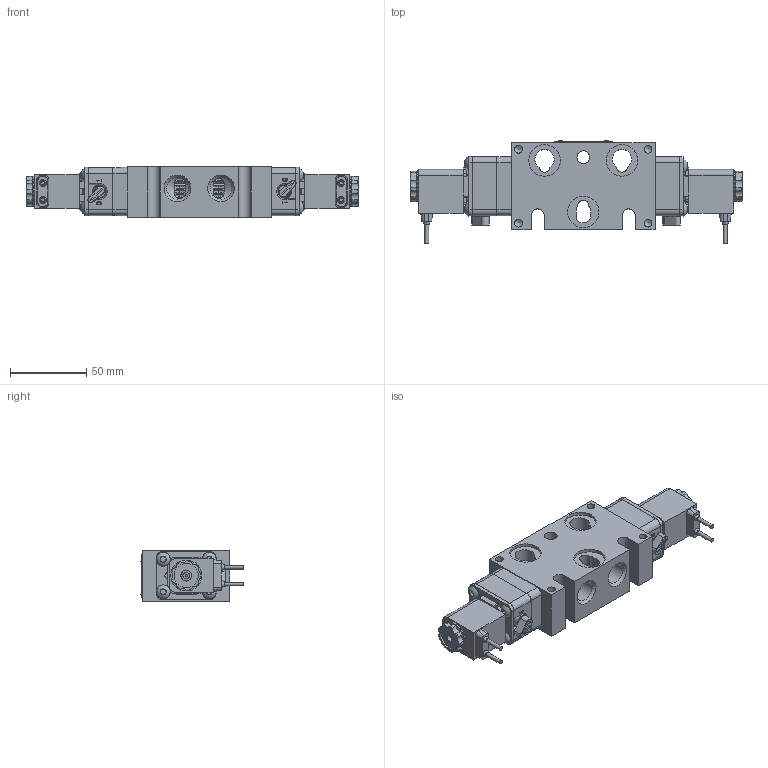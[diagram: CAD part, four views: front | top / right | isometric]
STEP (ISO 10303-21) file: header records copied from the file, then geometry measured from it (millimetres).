
FILE_DESCRIPTION(/* description */ (''),/* implementation_level */ '2;1');
FILE_NAME(/* name */ 'EBSY3MOZ.stp',/* time_stamp */ '2026-09-09T06:34:47-04:00',/* author */ ('rmckenna'),/* organization */ (''),/* preprocessor_version */ 'ST-DEVELOPER v20.2',/* originating_system */ 'Autodesk Inventor 2027',/* authorisation */ '');
FILE_SCHEMA (('AUTOMOTIVE_DESIGN { 1 0 10303 214 3 1 1 }'));
Products named in the file (1): Part2
Bounding box: 217.72 x 67.41 x 33.32 mm (x, y, z)
Volume: 216878.8 mm3; surface area: 90965.3 mm2
Topology: 2 solids, 24 shells, 2025 faces, 4995 edges, 3182 vertices
Faces by surface type: plane 858, cylinder 641, cone 274, torus 184, bspline 58, sphere 10
Full cylindrical faces by diameter (mm): 1.3 x2, 1.397 x2, 1.5 x4, 2.007 x2, 2.032 x8, 2.07 x2, 2.261 x2, 2.35 x8, 2.5 x2, 2.54 x4, 2.778 x2, 2.8 x2, 3 x8, 3.048 x2, 3.4 x2, 3.683 x11, 4.191 x4, 4.305 x2, 4.826 x6, 5.15 x6, 5.156 x10, 5.5 x2, 6.65 x2, 6.9 x2, 7.188 x2, 7.75 x2, 7.9 x2, 8 x4, 8.001 x2, 8.115 x2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
Entity records: 65861 total; most frequent: CARTESIAN_POINT 14861, DIRECTION 10549, ORIENTED_EDGE 9966, EDGE_CURVE 4983, AXIS2_PLACEMENT_3D 4068, VERTEX_POINT 3182, LINE 2413, VECTOR 2413
